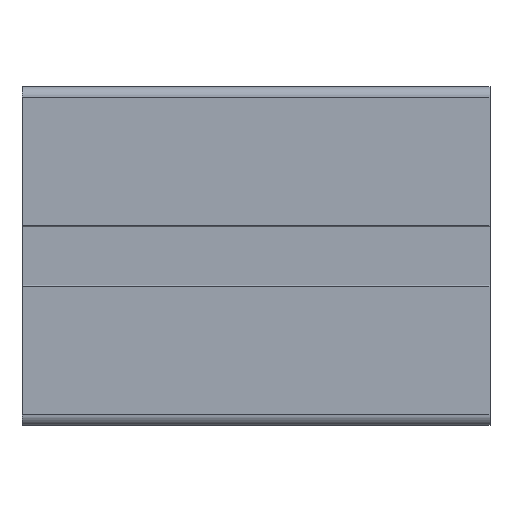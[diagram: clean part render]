
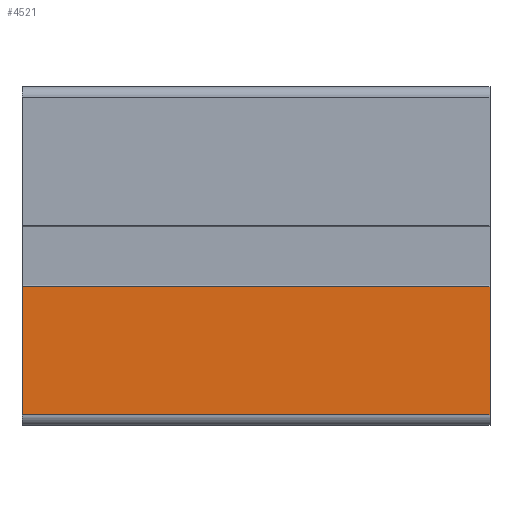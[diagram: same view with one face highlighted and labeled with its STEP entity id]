
A CAD part, front view. The second image highlights one B-rep face of the part: STEP entity #4521.
In plain terms, the highlighted planar face has unit normal (0, -1, 0).
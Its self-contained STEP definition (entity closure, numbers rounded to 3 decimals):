
#383 = VECTOR ( 'NONE', #9659, 1000. ) ;
#440 = CARTESIAN_POINT ( 'NONE',  ( 0., -22., -30. ) ) ;
#577 = EDGE_LOOP ( 'NONE', ( #6417, #2888, #5023, #11465 ) ) ;
#700 = LINE ( 'NONE', #2563, #7867 ) ;
#1015 = LINE ( 'NONE', #5435, #11493 ) ;
#1319 = CARTESIAN_POINT ( 'NONE',  ( 0., -22., -5.8 ) ) ;
#1776 = PLANE ( 'NONE',  #9135 ) ;
#2563 = CARTESIAN_POINT ( 'NONE',  ( 88.42, -22., -5.8 ) ) ;
#2888 = ORIENTED_EDGE ( 'NONE', *, *, #4494, .F. ) ;
#3146 = DIRECTION ( 'NONE',  ( -1., 0., 0. ) ) ;
#3805 = EDGE_CURVE ( 'NONE', #9443, #4373, #7167, .T. ) ;
#4373 = VERTEX_POINT ( 'NONE', #6727 ) ;
#4434 = DIRECTION ( 'NONE',  ( 0., 0., 1. ) ) ;
#4494 = EDGE_CURVE ( 'NONE', #7303, #9443, #1015, .T. ) ;
#4521 = ADVANCED_FACE ( 'NONE', ( #9188 ), #1776, .F. ) ;
#4977 = VECTOR ( 'NONE', #3146, 1000. ) ;
#5023 = ORIENTED_EDGE ( 'NONE', *, *, #8381, .F. ) ;
#5354 = CARTESIAN_POINT ( 'NONE',  ( 88.42, -22., -30. ) ) ;
#5435 = CARTESIAN_POINT ( 'NONE',  ( 88.42, -22., 8.606 ) ) ;
#6417 = ORIENTED_EDGE ( 'NONE', *, *, #3805, .F. ) ;
#6699 = CARTESIAN_POINT ( 'NONE',  ( 88.42, -22., -30. ) ) ;
#6727 = CARTESIAN_POINT ( 'NONE',  ( 0., -22., -30. ) ) ;
#7167 = LINE ( 'NONE', #6699, #4977 ) ;
#7303 = VERTEX_POINT ( 'NONE', #11794 ) ;
#7867 = VECTOR ( 'NONE', #11087, 1000. ) ;
#8185 = VERTEX_POINT ( 'NONE', #1319 ) ;
#8245 = DIRECTION ( 'NONE',  ( 0., 0., -1. ) ) ;
#8381 = EDGE_CURVE ( 'NONE', #8185, #7303, #700, .T. ) ;
#8776 = EDGE_CURVE ( 'NONE', #8185, #4373, #9582, .T. ) ;
#9060 = DIRECTION ( 'NONE',  ( 0., 1., 0. ) ) ;
#9135 = AXIS2_PLACEMENT_3D ( 'NONE', #5354, #9060, #4434 ) ;
#9188 = FACE_OUTER_BOUND ( 'NONE', #577, .T. ) ;
#9443 = VERTEX_POINT ( 'NONE', #10977 ) ;
#9582 = LINE ( 'NONE', #440, #383 ) ;
#9659 = DIRECTION ( 'NONE',  ( 0., 0., -1. ) ) ;
#10977 = CARTESIAN_POINT ( 'NONE',  ( 88.42, -22., -30. ) ) ;
#11087 = DIRECTION ( 'NONE',  ( 1., 0., 0. ) ) ;
#11465 = ORIENTED_EDGE ( 'NONE', *, *, #8776, .T. ) ;
#11493 = VECTOR ( 'NONE', #8245, 1000. ) ;
#11794 = CARTESIAN_POINT ( 'NONE',  ( 88.42, -22., -5.8 ) ) ;
